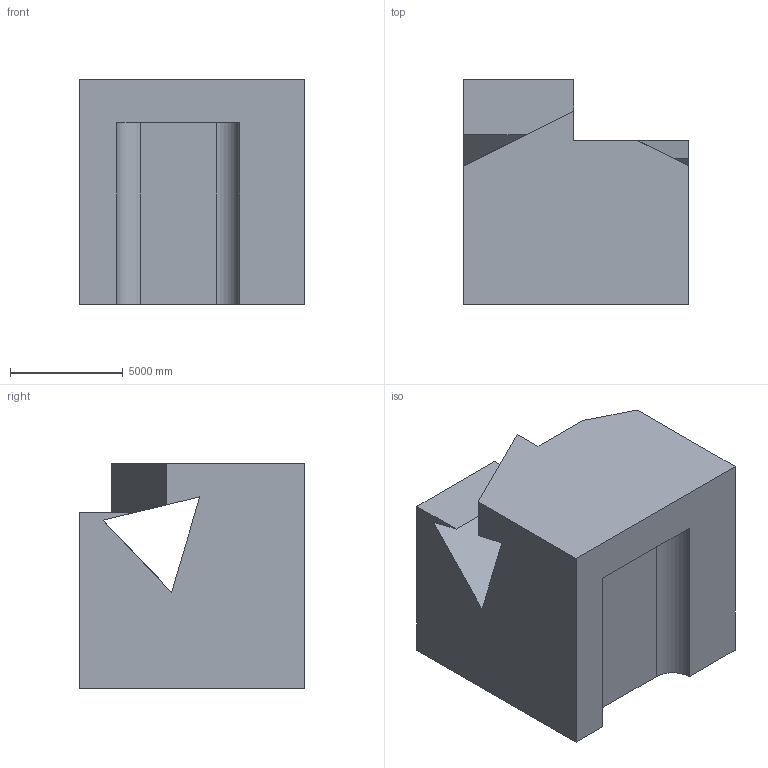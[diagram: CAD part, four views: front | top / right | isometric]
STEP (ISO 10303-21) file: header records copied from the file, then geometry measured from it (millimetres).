
FILE_DESCRIPTION (( 'STEP AP203' ), '1' );
FILE_NAME ('66.STEP', '2022-08-31T11:22:27', ( 'user' ), ( '' ), 'SwSTEP 2.0', 'SolidWorks 2021', '' );
FILE_SCHEMA (( 'CONFIG_CONTROL_DESIGN' ));
Length unit declared in the file: centimetre
Products named in the file (1): 66
Bounding box: 10000 x 10000 x 10000 mm (x, y, z)
Volume: 700882155363.2 mm3; surface area: 635281786.1 mm2
Topology: 1 solids, 1 shells, 19 faces, 57 edges, 38 vertices
Faces by surface type: plane 17, cylinder 2
Entity records: 716 total; most frequent: CARTESIAN_POINT 115, ORIENTED_EDGE 114, DIRECTION 101, EDGE_CURVE 57, VECTOR 53, LINE 53, VERTEX_POINT 38, AXIS2_PLACEMENT_3D 24
